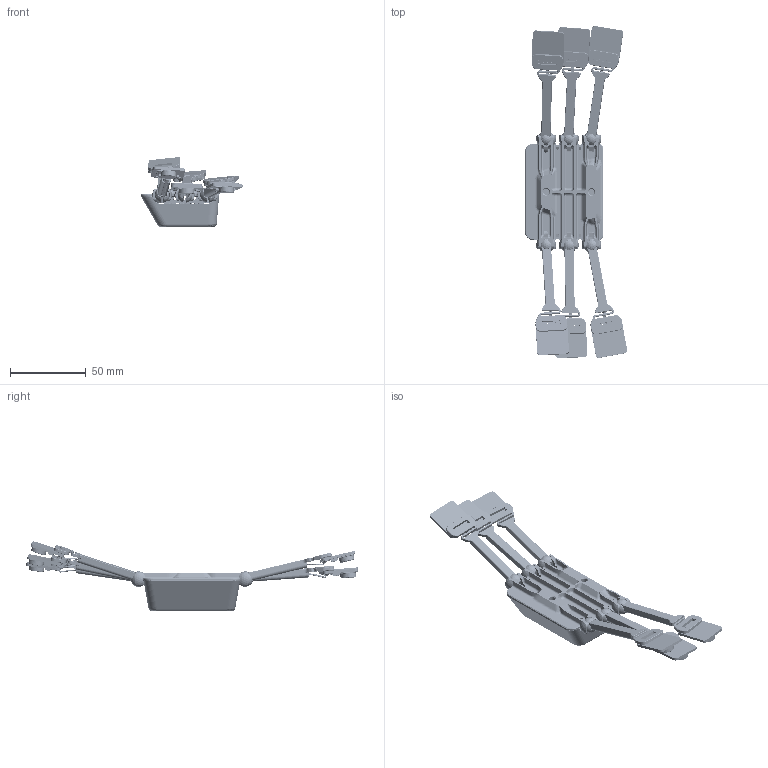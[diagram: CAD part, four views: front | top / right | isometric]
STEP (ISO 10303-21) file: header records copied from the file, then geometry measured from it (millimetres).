
FILE_DESCRIPTION(/* description */ (''),/* implementation_level */ '2;1');
FILE_NAME(/* name */ 'C:\Users\ga_ma\Downloads\Fab Academy 2024\Final project\2_CAD\SoundModule_Controller VF.stp',/* time_stamp */ '2024-06-30T06:00:28-05:00',/* author */ ('ga_ma'),/* organization */ (''),/* preprocessor_version */ 'ST-DEVELOPER v19',/* originating_system */ 'Autodesk Inventor 2023',/* authorisation */ '');
FILE_SCHEMA (('AUTOMOTIVE_DESIGN { 1 0 10303 214 3 1 1 }'));
Products named in the file (13): SoundModule_Controller v2; SoundModule_PCB; Document; Molex Connector - Male 2 pin; Molex Connector - Male 3 pin; Seeeduino XIAO SAMD21 v4; Socket 7 PIN - Female; Seeed Studio XIAO-ESP32-C3; Resistencia SMD_0; Resistencia SMD_10K; SM_Case_V2; SoundModule_Motor holder_V2; Vibration module
Assembly tree (35 placements, depth 4):
  SoundModule_Controller v2
    SoundModule_PCB
      Document
      Molex Connector - Male 2 pin
      Molex Connector - Male 3 pin  x6
      Socket 7 PIN - Female  x2
      Seeeduino XIAO SAMD21 v4
        Socket 7 PIN - Female  x2
      Seeed Studio XIAO-ESP32-C3
      Resistencia SMD_0
      Resistencia SMD_10K  x6
    SM_Case_V2
    SoundModule_Motor holder_V2  x6
    Vibration module  x6
Bounding box: 67.71 x 219.6 x 46.02 mm (x, y, z)
Volume: 42203.2 mm3; surface area: 60886.8 mm2
Topology: 272 solids, 280 shells, 6332 faces, 15640 edges, 10025 vertices
Faces by surface type: plane 3359, cylinder 1514, bspline 744, cone 389, torus 247, sphere 79
Full cylindrical faces by diameter (mm): 0.5 x17, 0.51 x32, 0.6 x2, 0.7 x38, 0.729 x32, 0.75 x14, 1 x64, 1.133 x36, 1.32 x84, 1.5 x2, 1.524 x6, 1.65 x1, 1.83 x24, 1.9 x1, 2 x2, 3 x12, 3.2 x12, 4 x3, 10 x6
Entity records: 124161 total; most frequent: CARTESIAN_POINT 35783, ORIENTED_EDGE 18626, DIRECTION 17164, EDGE_CURVE 9313, VERTEX_POINT 6000, LINE 5904, VECTOR 5904, AXIS2_PLACEMENT_3D 5630
